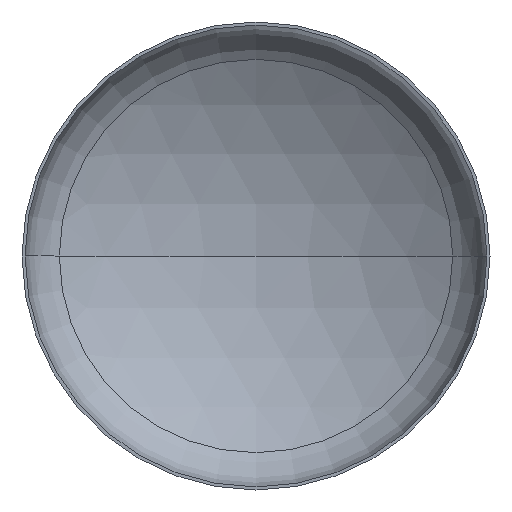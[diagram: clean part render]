
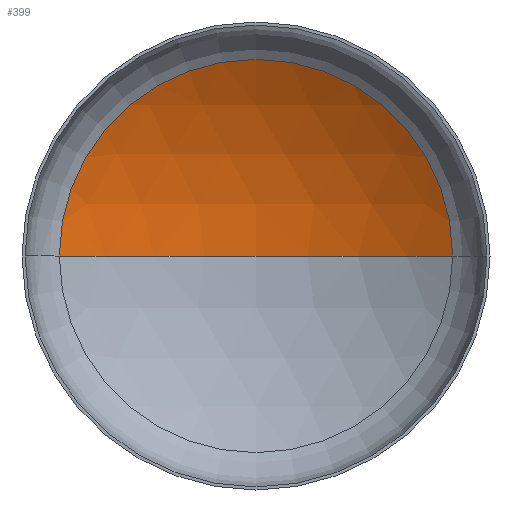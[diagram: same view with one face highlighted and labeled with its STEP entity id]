
A CAD part, front view. The second image highlights one B-rep face of the part: STEP entity #399.
In plain terms, the highlighted spherical face has radius 960 mm.
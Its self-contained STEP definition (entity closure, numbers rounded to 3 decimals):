
#2 = VERTEX_POINT ( 'NONE', #251 ) ;
#17 = EDGE_LOOP ( 'NONE', ( #28, #131, #129 ) ) ;
#23 = AXIS2_PLACEMENT_3D ( 'NONE', #308, #166, #36 ) ;
#24 = AXIS2_PLACEMENT_3D ( 'NONE', #153, #159, #155 ) ;
#28 = ORIENTED_EDGE ( 'NONE', *, *, #348, .F. ) ;
#36 = DIRECTION ( 'NONE',  ( 1., 0., 0. ) ) ;
#41 = VERTEX_POINT ( 'NONE', #232 ) ;
#47 = AXIS2_PLACEMENT_3D ( 'NONE', #88, #95, #98 ) ;
#88 = CARTESIAN_POINT ( 'NONE',  ( 0., 182.436, 0. ) ) ;
#95 = DIRECTION ( 'NONE',  ( 0., -1., 0. ) ) ;
#98 = DIRECTION ( 'NONE',  ( 1., 0., 0. ) ) ;
#129 = ORIENTED_EDGE ( 'NONE', *, *, #337, .T. ) ;
#131 = ORIENTED_EDGE ( 'NONE', *, *, #343, .T. ) ;
#153 = CARTESIAN_POINT ( 'NONE',  ( 0., -634.527, 0. ) ) ;
#155 = DIRECTION ( 'NONE',  ( -1., 0., 0. ) ) ;
#159 = DIRECTION ( 'NONE',  ( 0., 0., -1. ) ) ;
#166 = DIRECTION ( 'NONE',  ( 0., 0., 1. ) ) ;
#194 = AXIS2_PLACEMENT_3D ( 'NONE', #382, #335, #195 ) ;
#195 = DIRECTION ( 'NONE',  ( -1., 0., 0. ) ) ;
#224 = CIRCLE ( 'NONE', #24, 960. ) ;
#232 = CARTESIAN_POINT ( 'NONE',  ( 504.155, 182.436, 0. ) ) ;
#251 = CARTESIAN_POINT ( 'NONE',  ( -504.155, 182.436, 0. ) ) ;
#293 = CARTESIAN_POINT ( 'NONE',  ( 0., 325.473, 0. ) ) ;
#308 = CARTESIAN_POINT ( 'NONE',  ( 0., -634.527, 0. ) ) ;
#335 = DIRECTION ( 'NONE',  ( 0., 0., -1. ) ) ;
#337 = EDGE_CURVE ( 'NONE', #41, #2, #398, .T. ) ;
#342 = CIRCLE ( 'NONE', #23, 960. ) ;
#343 = EDGE_CURVE ( 'NONE', #389, #41, #224, .T. ) ;
#348 = EDGE_CURVE ( 'NONE', #389, #2, #342, .T. ) ;
#378 = SPHERICAL_SURFACE ( 'NONE', #194, 960. ) ;
#382 = CARTESIAN_POINT ( 'NONE',  ( 0., -634.527, 0. ) ) ;
#383 = FACE_OUTER_BOUND ( 'NONE', #17, .T. ) ;
#389 = VERTEX_POINT ( 'NONE', #293 ) ;
#398 = CIRCLE ( 'NONE', #47, 504.155 ) ;
#399 = ADVANCED_FACE ( 'NONE', ( #383 ), #378, .F. ) ;
